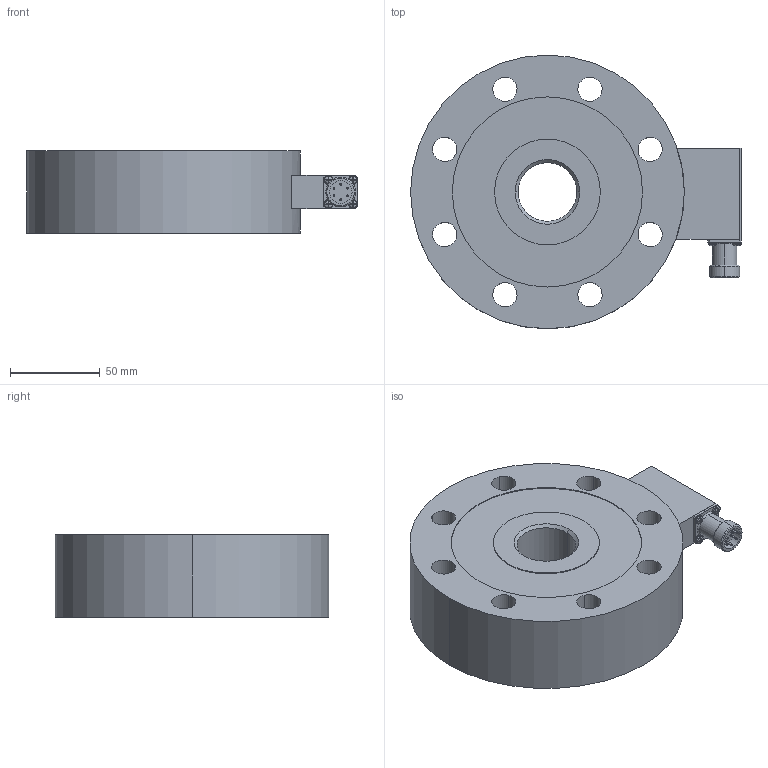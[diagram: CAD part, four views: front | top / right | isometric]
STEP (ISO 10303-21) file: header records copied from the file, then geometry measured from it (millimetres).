
FILE_DESCRIPTION(('STEP AP203'),'1');
FILE_NAME('C:/TPO v2/SharedFS/Outgoing/burster_85041-200_ca9bd3aankx9jv5h99ptcvue7.stp','2013-08-27T13:46:41',('TraceParts'),('TraceParts S.A.'),'XStep 1.0',' ',' ');
FILE_SCHEMA(('CONFIG_CONTROL_DESIGN'));
Length unit declared in the file: millimetre
Products named in the file (1): 1
Bounding box: 184.2 x 152.4 x 45.7 mm (x, y, z)
Volume: 754766.5 mm3; surface area: 82088.9 mm2
Topology: 1 solids, 1 shells, 168 faces, 413 edges, 260 vertices
Faces by surface type: plane 86, cylinder 48, torus 18, cone 16
Entity records: 5449 total; most frequent: CARTESIAN_POINT 1366, DIRECTION 867, ORIENTED_EDGE 826, EDGE_CURVE 413, AXIS2_PLACEMENT_3D 345, VERTEX_POINT 260, EDGE_LOOP 199, LINE 177
